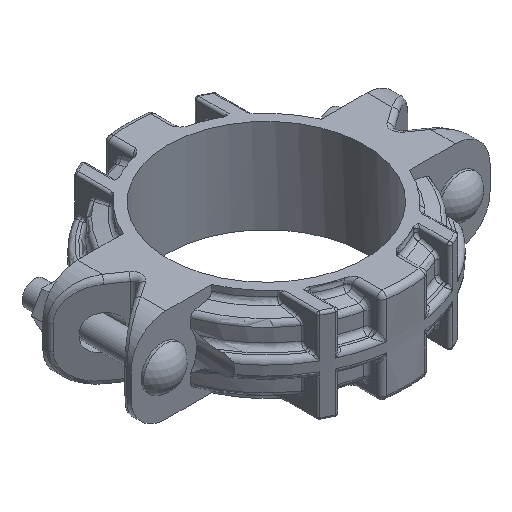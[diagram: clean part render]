
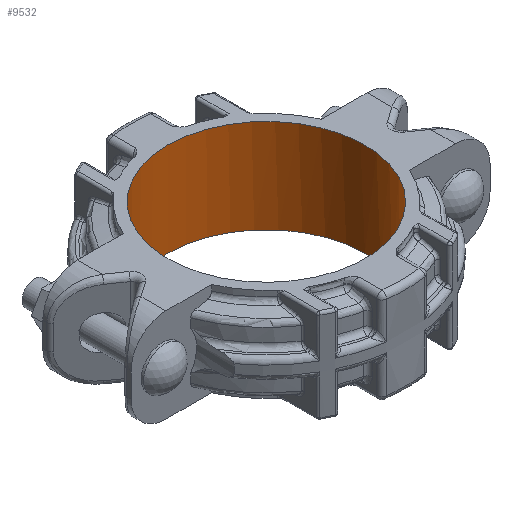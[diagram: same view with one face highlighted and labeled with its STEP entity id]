
A CAD part, isometric view. The second image highlights one B-rep face of the part: STEP entity #9532.
In plain terms, the highlighted cylindrical face has radius 63.5 mm (diameter 127 mm), a full revolution.
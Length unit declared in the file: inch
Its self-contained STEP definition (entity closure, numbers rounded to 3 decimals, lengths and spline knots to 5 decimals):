
#937=CYLINDRICAL_SURFACE('',#10539,2.5);
#1524=FACE_OUTER_BOUND('',#2111,.T.);
#2111=EDGE_LOOP('',(#8181,#8182,#8183,#8184,#8185,#8186));
#2518=LINE('',#22653,#2913);
#2913=VECTOR('',#12919,2.5);
#2979=CIRCLE('',#9675,2.5);
#2980=CIRCLE('',#9676,2.5);
#3012=CIRCLE('',#9735,2.5);
#3013=CIRCLE('',#9736,2.5);
#3605=VERTEX_POINT('',#13558);
#3606=VERTEX_POINT('',#13559);
#3680=VERTEX_POINT('',#13975);
#3681=VERTEX_POINT('',#13976);
#4429=EDGE_CURVE('',#3605,#3606,#2979,.T.);
#4430=EDGE_CURVE('',#3606,#3605,#2980,.T.);
#4524=EDGE_CURVE('',#3680,#3681,#3012,.T.);
#4525=EDGE_CURVE('',#3681,#3680,#3013,.T.);
#5600=EDGE_CURVE('',#3681,#3606,#2518,.T.);
#8181=ORIENTED_EDGE('',*,*,#4524,.T.);
#8182=ORIENTED_EDGE('',*,*,#5600,.T.);
#8183=ORIENTED_EDGE('',*,*,#4429,.F.);
#8184=ORIENTED_EDGE('',*,*,#4430,.F.);
#8185=ORIENTED_EDGE('',*,*,#5600,.F.);
#8186=ORIENTED_EDGE('',*,*,#4525,.T.);
#9532=ADVANCED_FACE('',(#1524),#937,.F.);
#9675=AXIS2_PLACEMENT_3D('',#13560,#10885,#10886);
#9676=AXIS2_PLACEMENT_3D('',#13561,#10887,#10888);
#9735=AXIS2_PLACEMENT_3D('',#13977,#11043,#11044);
#9736=AXIS2_PLACEMENT_3D('',#13978,#11045,#11046);
#10539=AXIS2_PLACEMENT_3D('',#22652,#12917,#12918);
#10885=DIRECTION('center_axis',(0.,0.,-1.));
#10886=DIRECTION('ref_axis',(1.,0.,0.));
#10887=DIRECTION('center_axis',(0.,0.,-1.));
#10888=DIRECTION('ref_axis',(1.,0.,0.));
#11043=DIRECTION('center_axis',(0.,0.,-1.));
#11044=DIRECTION('ref_axis',(-1.,0.,0.));
#11045=DIRECTION('center_axis',(0.,0.,-1.));
#11046=DIRECTION('ref_axis',(-1.,0.,0.));
#12917=DIRECTION('center_axis',(0.,0.,-1.));
#12918=DIRECTION('ref_axis',(0.,-1.,0.));
#12919=DIRECTION('',(0.,0.,1.));
#13558=CARTESIAN_POINT('',(2.23508,-1.12,1.19));
#13559=CARTESIAN_POINT('',(0.,2.5,1.19));
#13560=CARTESIAN_POINT('Origin',(0.,0.,1.19));
#13561=CARTESIAN_POINT('Origin',(0.,0.,1.19));
#13975=CARTESIAN_POINT('',(-2.5,0.,-1.19));
#13976=CARTESIAN_POINT('',(0.,2.5,-1.19));
#13977=CARTESIAN_POINT('Origin',(0.,0.,-1.19));
#13978=CARTESIAN_POINT('Origin',(0.,0.,-1.19));
#22652=CARTESIAN_POINT('Origin',(0.,0.,0.));
#22653=CARTESIAN_POINT('',(0.,2.5,0.));
